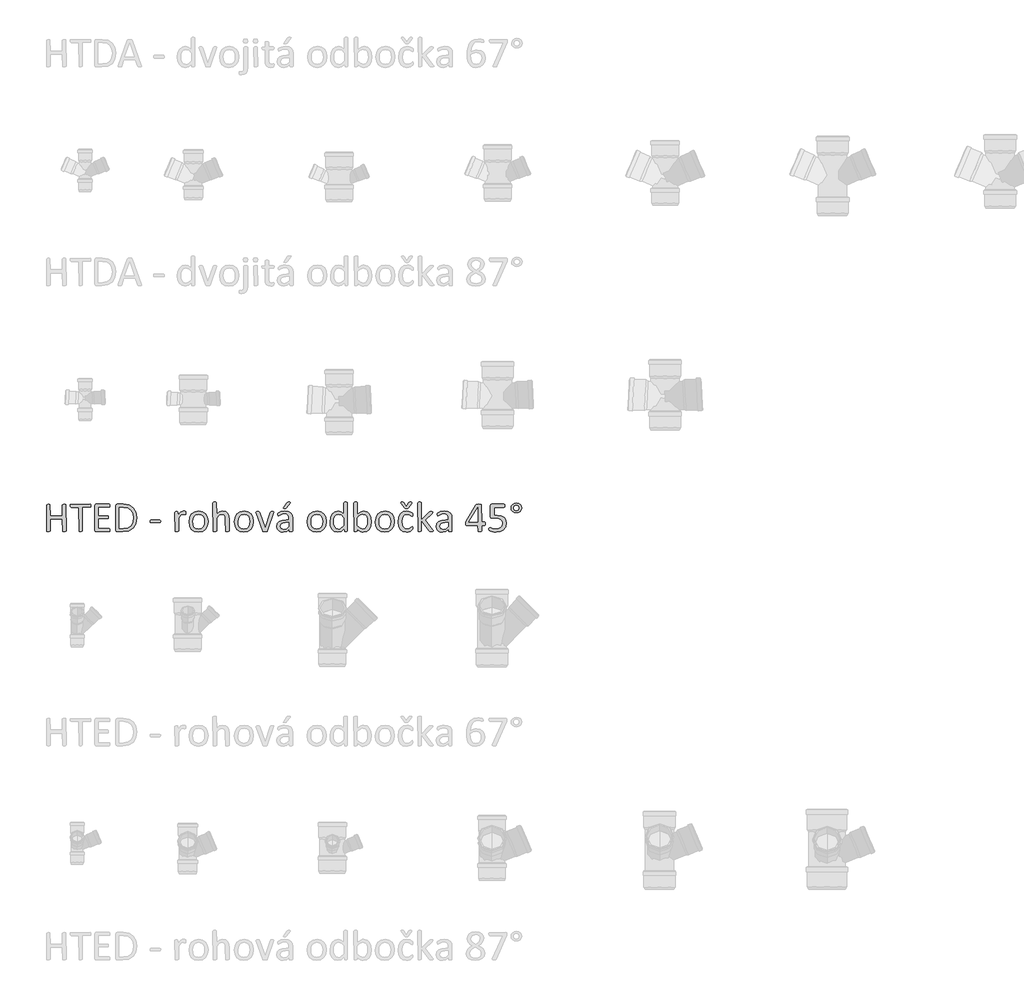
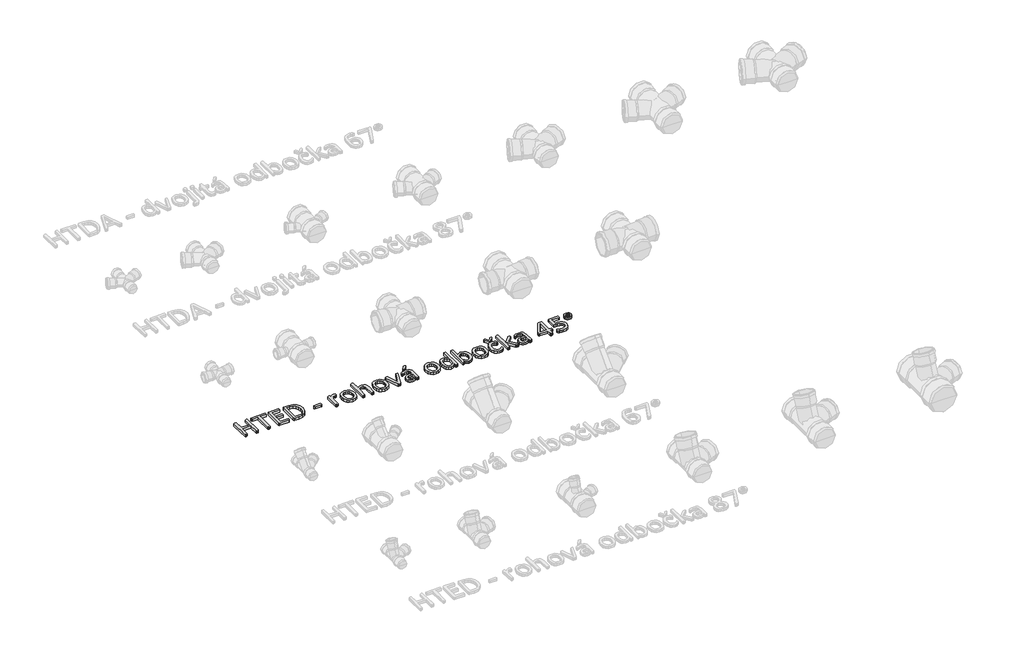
# One storey, part 14 of 26: 1 proxy.
"""IFC4 building model written with IfcOpenShell, lengths in millimetres."""

from ifc_helpers import new_model, si_unit, origin, origin_with_axes, place, context, project, spatial, polyline, outline, extrude, element, save

model = new_model("IFC4")

# Units and contexts
model_context = context("Model", 3, world=origin())
ifc_project = project(units=[si_unit("LENGTHUNIT", "METRE", prefix="MILLI")], contexts=[model_context])

# Site, building, storey
site = spatial("IfcSite", under=ifc_project)
building = spatial("IfcBuilding", under=site)
storey = spatial("IfcBuildingStorey", under=building, Name="Podlaží 1", Elevation=0.0)

# Proxy
placement = place(None, origin())
element("IfcBuildingElementProxy", 1, Name="120mm Arial", ObjectType="120mm Arial", at=placement, inside=storey, context=model_context, shape_type="SweptSolid", body=[
    extrude(outline(polyline([(-20465.0657483, 8928.0506997), (-20469.2817655, 8925.3184311), (-20473.1358927, 8925.0832026), (-20477.1166815, 8925.3184311), (-20479.5775327, 8925.8612659), (-20481.2784151, 8980.6694889), (-20534.5486061, 8980.6694889), (-20534.5486061, 8928.0145107), (-20538.7465288, 8925.3184311), (-20542.6549395, 8925.0832026), (-20546.5271613, 8925.3184311), (-20549.0603905, 8925.8793604), (-20550.7612729, 9042.5526591), (-20546.5271613, 9045.2849277), (-20542.6549395, 9045.5201562), (-20538.7465288, 9045.2849277), (-20536.2494886, 9044.7239984), (-20534.5486061, 8994.5660604), (-20481.2784151, 8994.5660604), (-20481.2784151, 9042.5526591), (-20477.1166815, 9045.2849277), (-20473.1358927, 9045.5201562), (-20469.2817655, 9045.2849277), (-20466.7666308, 9044.7239984), (-20465.0657483, 8928.0506997)])), origin_with_axes(), (0.0, 0.0, 1.0), 15.0),
    extrude(outline(polyline([(-20356.2092711, 9038.4633034), (-20356.390216, 9035.3329559), (-20356.9873343, 9033.1978056), (-20393.2667952, 9031.6235846), (-20393.2667952, 8928.0506997), (-20397.4647179, 8925.3184311), (-20401.3731287, 8925.0832026), (-20405.2453504, 8925.3184311), (-20407.7785796, 8925.8793604), (-20409.4794621, 9031.6235846), (-20443.3885442, 9031.6235846), (-20446.3017578, 9035.3329559), (-20446.5369862, 9038.4633034), (-20446.3017578, 9041.6660289), (-20445.686545, 9043.9097462), (-20359.3939021, 9045.5201562), (-20357.0054288, 9043.9097462), (-20356.390216, 9041.6660289), (-20356.2092711, 9038.4633034)])), origin_with_axes(), (0.0, 0.0, 1.0), 15.0),
    extrude(outline(polyline([(-20272.8298417, 8931.9952994), (-20273.0107867, 8928.9192354), (-20273.6621885, 8926.7298016), (-20274.7478581, 8925.463187), (-20334.0254212, 8925.0832026), (-20338.0785879, 8926.5307622), (-20339.9966043, 8931.5972206), (-20339.9966043, 9039.0061382), (-20338.0604934, 9044.0725966), (-20333.9530432, 9045.5201562), (-20276.0506617, 9045.5201562), (-20273.680283, 9043.8735572), (-20273.0650701, 9041.6841234), (-20272.8298417, 9038.4271144), (-20273.0650701, 9035.3691449), (-20273.680283, 9033.2159001), (-20323.7839374, 9031.6235846), (-20323.7839374, 8994.5660604), (-20282.9627585, 8994.5660604), (-20280.5742852, 8992.865178), (-20279.9590724, 8990.6757442), (-20279.7781275, 8987.3644517), (-20279.9590724, 8984.2702932), (-20280.5742852, 8982.1713319), (-20323.7839374, 8980.6694889), (-20323.7839374, 8938.9797742), (-20276.0868507, 8938.9797742), (-20273.6621885, 8937.3874587), (-20273.0107867, 8935.2342139), (-20272.8298417, 8931.9952994)])), origin_with_axes(), (0.0, 0.0, 1.0), 15.0),
    extrude(outline(polyline([(-20154.7089835, 8987.0749398), (-20158.7078667, 8959.7522536), (-20170.39691, 8940.3911447), (-20189.2513729, 8928.9011409), (-20215.8683739, 8925.0832026), (-20241.3816108, 8925.0832026), (-20245.452872, 8926.5307622), (-20247.3527939, 8931.5972206), (-20247.3527939, 9039.0061382), (-20245.452872, 9044.0725966), (-20241.3816108, 9045.5201562), (-20214.0951135, 9045.5201562), (-20187.6590574, 9041.4669895), (-20169.5464687, 9029.8322297), (-20158.4726383, 9011.4482235), (-20154.7089835, 8987.0749398)]), holes=[polyline([(-20170.9216503, 8986.3511601), (-20173.364407, 9004.3370873), (-20181.0002836, 9018.7403047), (-20194.1730754, 9028.2218197), (-20214.7103263, 9031.6235846), (-20231.140127, 9031.6235846), (-20231.140127, 8938.9797742), (-20214.5293814, 8938.9797742), (-20194.9330441, 8941.8387043), (-20181.6154964, 8950.578345), (-20173.5996354, 8965.3434523), (-20170.9216503, 8986.3511601)])]), origin_with_axes(), (0.0, 0.0, 1.0), 15.0),
    extrude(outline(polyline([(-20050.4846968, 8970.2832492), (-20051.335138, 8965.7234367), (-20053.8140837, 8964.4568221), (-20093.4048371, 8964.4568221), (-20095.9561607, 8965.7596256), (-20096.806602, 8970.2832492), (-20095.9561607, 8974.7706838), (-20093.4048371, 8976.0372984), (-20053.8140837, 8976.0372984), (-20050.7199252, 8972.9974233), (-20050.4846968, 8970.2832492)])), origin_with_axes(), (0.0, 0.0, 1.0), 15.0),
    extrude(outline(polyline([(-19939.3121243, 9006.1465367), (-19939.4025968, 9002.8533388), (-19939.7644866, 9000.7181885), (-19943.3110075, 8999.5058574), (-19945.6451973, 9000.3382041), (-19948.5584108, 9001.1343618), (-19952.0506482, 9001.5143462), (-19956.4657048, 9000.519149), (-19961.0074229, 8997.2621401), (-19965.9834088, 8991.254768), (-19971.7374579, 8982.0808594), (-19971.7374579, 8927.9059437), (-19975.8630026, 8925.2641476), (-19979.8799803, 8925.0832026), (-19983.8245801, 8925.2641476), (-19986.3216203, 8925.8069824), (-19987.9501247, 9010.2720814), (-19984.2226589, 9012.9500666), (-19980.5675711, 9013.0948225), (-19976.9848612, 9012.9500666), (-19974.777333, 9012.4072317), (-19973.2935844, 8998.2573373), (-19967.0328894, 9006.8341275), (-19961.4778797, 9012.0634363), (-19956.3028544, 9014.687138), (-19951.1097345, 9015.4109178), (-19948.4679384, 9015.2842563), (-19945.3556854, 9014.795705), (-19942.4243773, 9013.9814527), (-19940.5787389, 9013.0948225), (-19939.3483133, 9009.4035457), (-19939.3121243, 9006.1465367)])), origin_with_axes(), (0.0, 0.0, 1.0), 15.0),
    extrude(outline(polyline([(-19842.0361234, 8969.9937373), (-19844.7141085, 8951.0126129), (-19852.7299694, 8936.0665606), (-19866.0837062, 8926.2774393), (-19884.6667517, 8922.7671074), (-19902.580301, 8925.8612659), (-19915.3188249, 8934.8542295), (-19922.9185125, 8949.1850689), (-19925.4155527, 8968.2928548), (-19922.7737566, 8987.2739793), (-19914.8121791, 9002.201937), (-19901.5127259, 9011.9367749), (-19882.8934913, 9015.4109178), (-19864.9618475, 9012.3167593), (-19852.2233236, 9003.3237956), (-19844.587447, 8988.9929562), (-19842.0361234, 8969.9937373)]), holes=[polyline([(-19858.2487902, 8968.9080676), (-19859.4973103, 8981.4837411), (-19863.6047605, 8991.8699808), (-19871.3311095, 8998.9268335), (-19883.5087041, 9001.5143462), (-19895.0710859, 8999.1439675), (-19903.0326634, 8992.4490046), (-19907.6829484, 8982.2075209), (-19909.2028859, 8969.2699575), (-19907.9543658, 8956.6219061), (-19903.8107266, 8946.2718554), (-19896.0300941, 8939.2511916), (-19883.870594, 8936.6636789), (-19872.3444012, 8939.0340577), (-19864.3285402, 8945.6747371), (-19859.7144442, 8955.8800318), (-19858.2487902, 8968.9080676)])]), origin_with_axes(), (0.0, 0.0, 1.0), 15.0),
    extrude(outline(polyline([(-19749.392313, 8927.9421327), (-19753.5178576, 8925.2641476), (-19757.4624574, 8925.0832026), (-19761.4794351, 8925.2641476), (-19763.9221918, 8925.8069824), (-19765.6049798, 8976.2906213), (-19766.6725549, 8987.6539636), (-19769.7667135, 8995.0908008), (-19775.0322113, 8999.8677472), (-19782.5052374, 9001.5143462), (-19793.4885954, 8997.479274), (-19804.9785992, 8985.6273803), (-19804.9785992, 8927.9421327), (-19809.1041439, 8925.2641476), (-19813.1211216, 8925.0832026), (-19817.0657213, 8925.2641476), (-19819.5627615, 8925.8250769), (-19821.191266, 9051.8170401), (-19817.0657213, 9054.6035923), (-19813.1211216, 9054.7845372), (-19809.1041439, 9054.6035923), (-19806.6613872, 9054.0426629), (-19805.3766781, 9053.1017492), (-19804.9785992, 9001.7314801), (-19791.9505634, 9012.0453419), (-19778.7415826, 9015.4109178), (-19764.917389, 9012.5881767), (-19755.8520474, 9005.0427726), (-19750.894156, 8993.9870366), (-19749.392313, 8978.6790945), (-19749.392313, 8927.9421327)])), origin_with_axes(), (0.0, 0.0, 1.0), 15.0),
    extrude(outline(polyline([(-19642.851931, 8969.9937373), (-19645.5299161, 8951.0126129), (-19653.5457771, 8936.0665606), (-19666.8995138, 8926.2774393), (-19685.4825594, 8922.7671074), (-19703.3961087, 8925.8612659), (-19716.1346326, 8934.8542295), (-19723.7343202, 8949.1850689), (-19726.2313604, 8968.2928548), (-19723.5895642, 8987.2739793), (-19715.6279867, 9002.201937), (-19702.3285335, 9011.9367749), (-19683.7092989, 9015.4109178), (-19665.7776552, 9012.3167593), (-19653.0391312, 9003.3237956), (-19645.4032547, 8988.9929562), (-19642.851931, 8969.9937373)]), holes=[polyline([(-19659.0645978, 8968.9080676), (-19660.3131179, 8981.4837411), (-19664.4205681, 8991.8699808), (-19672.1469171, 8998.9268335), (-19684.3245118, 9001.5143462), (-19695.8868936, 8999.1439675), (-19703.848471, 8992.4490046), (-19708.498756, 8982.2075209), (-19710.0186935, 8969.2699575), (-19708.7701734, 8956.6219061), (-19704.6265343, 8946.2718554), (-19696.8459018, 8939.2511916), (-19684.6864016, 8936.6636789), (-19673.1602088, 8939.0340577), (-19665.1443479, 8945.6747371), (-19660.5302519, 8955.8800318), (-19659.0645978, 8968.9080676)])]), origin_with_axes(), (0.0, 0.0, 1.0), 15.0),
    extrude(outline(polyline([(-19553.4922713, 9011.502507), (-19581.9820524, 8928.3764006), (-19582.9591551, 8926.7298016), (-19584.7686046, 8925.7346044), (-19587.8265741, 8925.2279586), (-19592.4768591, 8925.0832026), (-19597.0909551, 8925.2641476), (-19600.1127357, 8925.8069824), (-19601.9221851, 8926.8202741), (-19602.9354768, 8928.3764006), (-19631.3076437, 9006.6169936), (-19631.904762, 9008.5169155), (-19628.3039576, 9013.00435), (-19624.7212478, 9013.0948225), (-19620.4147582, 9012.9500666), (-19617.917718, 9012.4434207), (-19615.8187566, 9010.1635145), (-19592.2597252, 8942.2729721), (-19568.3388038, 9010.1635145), (-19566.3665039, 9012.4434207), (-19563.9418417, 9012.9500666), (-19559.9067695, 9013.0948225), (-19556.3783431, 9013.00435), (-19553.4922713, 9011.502507)])), origin_with_axes(), (0.0, 0.0, 1.0), 15.0),
    extrude(outline(polyline([(-19496.9741186, 9051.4913392), (-19495.635126, 9053.0836547), (-19493.7713931, 9054.0607574), (-19491.0391245, 9054.6035923), (-19487.1307138, 9054.7845372), (-19482.7880351, 9054.4769308), (-19480.4719399, 9053.5903006), (-19480.7252628, 9050.6589925), (-19498.0235993, 9029.8503242), (-19499.4168753, 9028.4208591), (-19500.8463404, 9027.5704179), (-19502.9453017, 9027.1180555), (-19506.1661217, 9026.9913941), (-19509.4955086, 9027.2628115), (-19511.2325801, 9027.9865913), (-19510.8345012, 9030.8274268), (-19496.9741186, 9051.4913392)])), origin_with_axes(), (0.0, 0.0, 1.0), 15.0),
    extrude(outline(polyline([(-19471.4608818, 8927.8697547), (-19472.2570395, 8926.1869668), (-19474.4283788, 8925.35462), (-19478.4815455, 8925.0832026), (-19482.5889957, 8925.35462), (-19484.8146185, 8926.1869668), (-19485.5022093, 8927.8697547), (-19485.5022093, 8936.1932221), (-19497.6978984, 8926.5669512), (-19511.9563598, 8922.7671074), (-19523.9168205, 8924.4860843), (-19533.0183511, 8929.4620702), (-19538.8628727, 8937.4598367), (-19540.9437396, 8948.2441552), (-19538.066715, 8960.5122223), (-19529.8156256, 8969.1613906), (-19516.6609283, 8974.3183214), (-19499.1454579, 8976.0372984), (-19487.6735486, 8976.0372984), (-19487.6735486, 8982.9493951), (-19488.6868403, 8991.9966423), (-19491.9438492, 8998.5468492), (-19497.7521819, 9002.4914489), (-19506.5280116, 9003.8304415), (-19516.5704558, 9002.3828819), (-19524.3510884, 8999.198251), (-19529.9422871, 8996.01362), (-19533.271674, 8994.5660604), (-19536.1306041, 8998.0944868), (-19536.311549, 9000.7543775), (-19535.9858481, 9004.5542212), (-19534.3935327, 9007.2141119), (-19530.050854, 9009.928286), (-19522.9578123, 9012.6062712), (-19514.1819826, 9014.61476), (-19504.5738062, 9015.4109178), (-19489.1934861, 9013.3662399), (-19478.9339079, 9007.3950568), (-19473.2341422, 8997.6421245), (-19471.4608818, 8984.0350648), (-19471.4608818, 8927.8697547)]), holes=[polyline([(-19487.6735486, 8964.4568221), (-19500.5568285, 8964.4568221), (-19511.304958, 8963.3892469), (-19518.8865511, 8960.2408049), (-19523.3197022, 8955.2467245), (-19524.7310727, 8948.5336671), (-19520.677906, 8938.1836164), (-19509.3145637, 8934.3475837), (-19498.3131112, 8937.4055532), (-19487.6735486, 8946.7604067), (-19487.6735486, 8964.4568221)])]), origin_with_axes(), (0.0, 0.0, 1.0), 15.0),
    extrude(outline(polyline([(-19323.2307851, 8969.9937373), (-19325.9087703, 8951.0126129), (-19333.9246312, 8936.0665606), (-19347.2783679, 8926.2774393), (-19365.8614135, 8922.7671074), (-19383.7749628, 8925.8612659), (-19396.5134867, 8934.8542295), (-19404.1131743, 8949.1850689), (-19406.6102145, 8968.2928548), (-19403.9684183, 8987.2739793), (-19396.0068409, 9002.201937), (-19382.7073876, 9011.9367749), (-19364.0881531, 9015.4109178), (-19346.1565093, 9012.3167593), (-19333.4179854, 9003.3237956), (-19325.7821088, 8988.9929562), (-19323.2307851, 8969.9937373)]), holes=[polyline([(-19339.4434519, 8968.9080676), (-19340.691972, 8981.4837411), (-19344.7994222, 8991.8699808), (-19352.5257713, 8998.9268335), (-19364.7033659, 9001.5143462), (-19376.2657477, 8999.1439675), (-19384.2273251, 8992.4490046), (-19388.8776101, 8982.2075209), (-19390.3975477, 8969.2699575), (-19389.1490276, 8956.6219061), (-19385.0053884, 8946.2718554), (-19377.2247559, 8939.2511916), (-19365.0652558, 8936.6636789), (-19353.5390629, 8939.0340577), (-19345.523202, 8945.6747371), (-19340.909106, 8955.8800318), (-19339.4434519, 8968.9080676)])]), origin_with_axes(), (0.0, 0.0, 1.0), 15.0),
    extrude(outline(polyline([(-19230.9126756, 8927.9783217), (-19234.296346, 8925.2641476), (-19237.6076385, 8925.0832026), (-19241.0455924, 8925.2641476), (-19243.2893097, 8925.7346044), (-19244.9540031, 8938.0388605), (-19258.3982123, 8926.8021796), (-19273.651871, 8922.7671074), (-19289.06838, 8926.3679117), (-19299.4003362, 8936.1027496), (-19305.1905744, 8950.542156), (-19307.0181183, 8968.0033429), (-19304.738212, 8987.6358691), (-19298.0070602, 9002.5819214), (-19286.9694187, 9012.0815308), (-19271.7338546, 9015.4109178), (-19258.5791573, 9012.1720033), (-19246.7996415, 9002.6723938), (-19246.7996415, 9051.7808512), (-19245.1349481, 9053.9883794), (-19242.6379079, 9054.5493088), (-19238.8018751, 9054.7845372), (-19234.7848974, 9054.5493088), (-19232.3421407, 9053.9883794), (-19231.0212426, 9053.0655602), (-19230.9126756, 8927.9783217)]), holes=[polyline([(-19246.7996415, 8986.1702151), (-19258.4163068, 8997.587841), (-19270.1053501, 9001.5143462), (-19279.695432, 8998.7639831), (-19286.100883, 8991.5080909), (-19289.6835928, 8981.3027962), (-19290.8054515, 8969.7404144), (-19289.8645378, 8957.5085363), (-19286.5894343, 8946.9051627), (-19280.4011173, 8939.4683255), (-19270.7205629, 8936.6636789), (-19265.0388917, 8937.4779312), (-19259.4295985, 8940.1740108), (-19253.4403209, 8945.0595243), (-19246.7996415, 8952.4782669), (-19246.7996415, 8986.1702151)])]), origin_with_axes(), (0.0, 0.0, 1.0), 15.0),
    extrude(outline(polyline([(-19126.362688, 8970.1746822), (-19128.6787833, 8950.4516835), (-19135.5004076, 8935.5056313), (-19146.5742381, 8926.0422108), (-19161.6107628, 8922.7671074), (-19168.8485604, 8923.5632651), (-19175.3625784, 8926.1507778), (-19181.7318403, 8930.6563069), (-19188.4629922, 8937.2065138), (-19188.4629922, 8927.7611878), (-19192.3533084, 8925.2641476), (-19195.7369789, 8925.0832026), (-19199.0663658, 8925.2641476), (-19201.3281776, 8925.7707934), (-19202.7938316, 9051.8170401), (-19198.6682869, 9054.6035923), (-19194.7236872, 9054.7845372), (-19190.7067095, 9054.6035923), (-19188.2639527, 9054.0426629), (-19186.9792437, 9053.1017492), (-19186.5811648, 9001.5505352), (-19179.5424065, 9008.0102696), (-19172.8655382, 9012.2805703), (-19166.3334257, 9014.6690435), (-19159.4394235, 9015.4109178), (-19144.2219538, 9011.7558299), (-19133.9442811, 9001.9667086), (-19128.1721374, 8987.5815857), (-19126.362688, 8970.1746822)]), holes=[polyline([(-19142.5753548, 8968.4014218), (-19143.5162685, 8980.7237724), (-19146.8094665, 8991.3090515), (-19153.015878, 8998.7096996), (-19162.6602434, 9001.5143462), (-19168.3057256, 9000.700094), (-19173.9693023, 8997.9859198), (-19179.9585799, 8993.1185009), (-19186.5811648, 8985.6273803), (-19186.5811648, 8952.00781), (-19174.8921215, 8940.5901842), (-19163.2754562, 8936.6636789), (-19153.7396578, 8939.4321366), (-19147.2980178, 8946.7423122), (-19143.6972135, 8956.947607), (-19142.5753548, 8968.4014218)])]), origin_with_axes(), (0.0, 0.0, 1.0), 15.0),
    extrude(outline(polyline([(-19024.4544966, 8969.9937373), (-19027.1324817, 8951.0126129), (-19035.1483427, 8936.0665606), (-19048.5020794, 8926.2774393), (-19067.085125, 8922.7671074), (-19084.9986742, 8925.8612659), (-19097.7371982, 8934.8542295), (-19105.3368857, 8949.1850689), (-19107.8339259, 8968.2928548), (-19105.1921298, 8987.2739793), (-19097.2305523, 9002.201937), (-19083.9310991, 9011.9367749), (-19065.3118645, 9015.4109178), (-19047.3802208, 9012.3167593), (-19034.6416968, 9003.3237956), (-19027.0058203, 8988.9929562), (-19024.4544966, 8969.9937373)]), holes=[polyline([(-19040.6671634, 8968.9080676), (-19041.9156835, 8981.4837411), (-19046.0231337, 8991.8699808), (-19053.7494827, 8998.9268335), (-19065.9270773, 9001.5143462), (-19077.4894591, 8999.1439675), (-19085.4510366, 8992.4490046), (-19090.1013216, 8982.2075209), (-19091.6212591, 8969.2699575), (-19090.372739, 8956.6219061), (-19086.2290998, 8946.2718554), (-19078.4484673, 8939.2511916), (-19066.2889672, 8936.6636789), (-19054.7627744, 8939.0340577), (-19046.7469135, 8945.6747371), (-19042.1328174, 8955.8800318), (-19040.6671634, 8968.9080676)])]), origin_with_axes(), (0.0, 0.0, 1.0), 15.0),
    extrude(outline(polyline([(-18943.3911625, 8941.7301373), (-18943.4816349, 8939.1969081), (-18943.8073358, 8937.3874587), (-18945.7977302, 8933.7504654), (-18949.6880465, 8930.222039), (-18955.858269, 8926.4764787), (-18963.2951061, 8923.7984935), (-18971.6185735, 8922.7671074), (-18987.3245944, 8925.7707934), (-18998.7784093, 8934.5466231), (-19005.8171675, 8948.6965176), (-19008.2418298, 8968.0395319), (-19005.2743327, 8989.4815076), (-18997.1499048, 9004.1561424), (-18985.0084992, 9012.6424602), (-18969.881502, 9015.4109178), (-18962.2456255, 9014.5966655), (-18955.4420956, 9012.4615152), (-18949.9051804, 9009.4216402), (-18946.3948485, 9006.4722376), (-18944.8930055, 9004.5361267), (-18944.2054147, 9002.9980947), (-18943.8435248, 9001.0981728), (-18943.7530524, 8998.4382822), (-18944.5673046, 8993.6251467), (-18946.5396045, 8992.2499652), (-18949.669952, 8993.6975247), (-18954.139292, 8996.8821557), (-18960.7075934, 9000.0667867), (-18969.772935, 9001.5143462), (-18979.2951626, 8999.4153849), (-18986.2932083, 8993.1185009), (-18990.5951743, 8982.8227337), (-18992.0291629, 8968.7271227), (-18990.5454144, 8954.7219842), (-18986.1665468, 8944.6614454), (-18979.0554106, 8938.6359788), (-18969.4110452, 8936.6636789), (-18960.3818926, 8938.4912229), (-18953.6507407, 8942.5082006), (-18948.8556997, 8946.4708948), (-18945.8158247, 8948.2441552), (-18943.5178239, 8944.6795399), (-18943.3911625, 8941.7301373)])), origin_with_axes(), (0.0, 0.0, 1.0), 15.0),
    extrude(outline(polyline([(-18960.7618769, 9052.1065521), (-18959.6038293, 9053.3912611), (-18956.3106314, 9054.6578757), (-18953.4155123, 9054.7845372), (-18949.633763, 9054.4769308), (-18947.8243136, 9053.5903006), (-18949.1814006, 9049.7904568), (-18964.1274529, 9029.3074893), (-18965.303595, 9028.1494417), (-18966.8959105, 9027.4799454), (-18969.2120057, 9027.1180555), (-18972.5594872, 9026.9913941), (-18975.7079292, 9027.1180555), (-18977.9335519, 9027.5161344), (-18979.471584, 9028.2399142), (-18995.5033058, 9049.7904568), (-18996.8965819, 9052.0160796), (-18994.99666, 9054.4769308), (-18991.2330052, 9054.7845372), (-18988.1207522, 9054.6578757), (-18986.2389248, 9054.2055134), (-18983.9228295, 9052.1065521), (-18972.3423532, 9035.9300742), (-18960.7618769, 9052.1065521)])), origin_with_axes(), (0.0, 0.0, 1.0), 15.0),
    extrude(outline(polyline([(-18853.0634473, 8928.0145107), (-18857.1347085, 8925.2641476), (-18861.1335918, 8925.0832026), (-18865.2591364, 8925.2279586), (-18868.0094996, 8925.6803209), (-18869.818949, 8926.5850457), (-18871.0855636, 8928.0145107), (-18906.3336383, 8973.5764471), (-18906.3336383, 8927.9059437), (-18910.459183, 8925.2641476), (-18914.4761607, 8925.0832026), (-18918.4207605, 8925.2641476), (-18920.9178007, 8925.8250769), (-18922.5463051, 9051.8170401), (-18918.4207605, 9054.6035923), (-18914.4761607, 9054.7845372), (-18910.459183, 9054.6035923), (-18908.0164263, 9054.0426629), (-18906.7317172, 9053.1017492), (-18906.3336383, 8975.6754085), (-18874.1254386, 9009.9101915), (-18872.5150286, 9011.4120346), (-18870.4884453, 9012.4072317), (-18867.7018932, 9012.9500666), (-18863.8115769, 9013.0948225), (-18859.8307882, 9012.9500666), (-18857.2432755, 9012.4977042), (-18855.8138105, 9011.683452), (-18856.0128499, 9008.1550256), (-18858.1299057, 9005.6037019), (-18890.1209715, 8975.7839754), (-18855.3433536, 8932.3210003), (-18853.5881877, 8929.8058656), (-18853.0634473, 8928.0145107)])), origin_with_axes(), (0.0, 0.0, 1.0), 15.0),
    extrude(outline(polyline([(-18772.0001132, 8927.8697547), (-18772.796271, 8926.1869668), (-18774.9676103, 8925.35462), (-18779.020777, 8925.0832026), (-18783.1282272, 8925.35462), (-18785.35385, 8926.1869668), (-18786.0414408, 8927.8697547), (-18786.0414408, 8936.1932221), (-18798.2371299, 8926.5669512), (-18812.4955913, 8922.7671074), (-18824.456052, 8924.4860843), (-18833.5575826, 8929.4620702), (-18839.4021042, 8937.4598367), (-18841.482971, 8948.2441552), (-18838.6059465, 8960.5122223), (-18830.3548571, 8969.1613906), (-18817.2001598, 8974.3183214), (-18799.6846894, 8976.0372984), (-18788.2127801, 8976.0372984), (-18788.2127801, 8982.9493951), (-18789.2260717, 8991.9966423), (-18792.4830807, 8998.5468492), (-18798.2914133, 9002.4914489), (-18807.067243, 9003.8304415), (-18817.1096873, 9002.3828819), (-18824.8903198, 8999.198251), (-18830.4815186, 8996.01362), (-18833.8109055, 8994.5660604), (-18836.6698356, 8998.0944868), (-18836.8507805, 9000.7543775), (-18836.5250796, 9004.5542212), (-18834.9327641, 9007.2141119), (-18830.5900855, 9009.928286), (-18823.4970438, 9012.6062712), (-18814.7212141, 9014.61476), (-18805.1130377, 9015.4109178), (-18789.7327176, 9013.3662399), (-18779.4731394, 9007.3950568), (-18773.7733737, 8997.6421245), (-18772.0001132, 8984.0350648), (-18772.0001132, 8927.8697547)]), holes=[polyline([(-18788.2127801, 8964.4568221), (-18801.0960599, 8964.4568221), (-18811.8441895, 8963.3892469), (-18819.4257826, 8960.2408049), (-18823.8589337, 8955.2467245), (-18825.2703042, 8948.5336671), (-18821.2171375, 8938.1836164), (-18809.8537951, 8934.3475837), (-18798.8523427, 8937.4055532), (-18788.2127801, 8946.7604067), (-18788.2127801, 8964.4568221)])]), origin_with_axes(), (0.0, 0.0, 1.0), 15.0),
    extrude(outline(polyline([(-18625.2175761, 8959.8246315), (-18626.1584898, 8954.7400787), (-18628.764097, 8952.8763458), (-18642.2987787, 8952.8763458), (-18642.2987787, 8927.9421327), (-18644.0358501, 8925.8069824), (-18646.5690793, 8925.2641476), (-18650.549868, 8925.0832026), (-18654.4220898, 8925.2641476), (-18656.9010355, 8925.8069824), (-18658.5114455, 8952.8763458), (-18707.5475248, 8952.8763458), (-18709.3931632, 8953.1658577), (-18710.7140613, 8954.2334328), (-18711.5464081, 8956.4590556), (-18711.7816365, 8960.2227104), (-18711.691164, 8963.5159084), (-18711.3292741, 8966.175799), (-18710.5873999, 8968.4918943), (-18709.5017302, 8970.862273), (-18666.7625349, 9042.6974151), (-18665.3873533, 9043.9640297), (-18663.0350691, 9044.8687544), (-18659.4885482, 9045.3754002), (-18654.5306568, 9045.5201562), (-18649.0299305, 9045.2849277), (-18645.2481812, 9044.6878094), (-18643.0587474, 9043.7288012), (-18642.2987787, 8966.7729173), (-18628.764097, 8966.7729173), (-18626.1946788, 8965.0539404), (-18625.2175761, 8959.8246315)]), holes=[polyline([(-18658.5114455, 9031.5873956), (-18697.2336631, 8966.7729173), (-18658.5114455, 8966.7729173), (-18658.5114455, 9031.5873956)])]), origin_with_axes(), (0.0, 0.0, 1.0), 15.0),
    extrude(outline(polyline([(-18533.4423015, 8962.7197506), (-18536.7174049, 8945.7290205), (-18545.981786, 8933.189536), (-18560.2402474, 8925.426998), (-18578.642348, 8922.7671074), (-18589.3000051, 8923.5632651), (-18598.2748742, 8925.535565), (-18604.7346087, 8927.8335658), (-18607.9554287, 8929.6249207), (-18609.7829726, 8934.2209222), (-18609.873445, 8937.1341358), (-18609.7286891, 8939.9930659), (-18609.2039488, 8942.0558382), (-18604.1917739, 8942.5262951), (-18598.8358036, 8940.1740108), (-18590.4942417, 8937.7855376), (-18578.678537, 8936.6636789), (-18567.0075882, 8938.129333), (-18557.8698687, 8942.743429), (-18551.8444021, 8950.6326285), (-18549.6549683, 8962.1769158), (-18551.4825122, 8972.2736436), (-18557.0918054, 8979.5476302), (-18566.6818873, 8983.8722144), (-18580.5603644, 8985.3016794), (-18590.3856748, 8984.7407501), (-18598.0396458, 8984.1798208), (-18601.8033006, 8985.3921519), (-18602.9251593, 8990.0786259), (-18602.9251593, 9039.4404061), (-18601.4775997, 9044.0183131), (-18597.315866, 9045.5201562), (-18543.9371081, 9045.5201562), (-18541.3315009, 9043.8554627), (-18540.6258157, 9041.7203124), (-18540.3905872, 9038.6804373), (-18541.2772175, 9033.469223), (-18543.7561632, 9031.6235846), (-18586.7124924, 9031.6235846), (-18586.7124924, 8996.2307539), (-18580.361325, 8996.7916832), (-18572.8882989, 8996.8821557), (-18555.6804349, 8994.439399), (-18543.4123678, 8987.5453967), (-18535.9755306, 8976.7610781), (-18533.4423015, 8962.7197506)])), origin_with_axes(), (0.0, 0.0, 1.0), 15.0),
    extrude(outline(polyline([(-18466.2755389, 9029.6693792), (-18468.0307049, 9021.4001954), (-18472.9705018, 9014.61476), (-18480.4616224, 9010.073042), (-18489.7983814, 9008.462632), (-18498.9903845, 9009.9463805), (-18506.1558042, 9014.1262087), (-18510.8965617, 9020.5859431), (-18512.5974441, 9028.9455995), (-18510.7879947, 9037.4500117), (-18505.8120088, 9044.1449746), (-18498.3751717, 9048.5419367), (-18489.0746016, 9050.1523467), (-18479.9368821, 9048.6324092), (-18472.7171789, 9044.452581), (-18467.9764214, 9038.0290355), (-18466.2755389, 9029.6693792)]), holes=[polyline([(-18477.8560152, 9029.3436783), (-18478.7245509, 9033.9396799), (-18481.1492132, 9037.6128622), (-18484.8585845, 9040.0194299), (-18489.5450585, 9040.8879656), (-18494.068682, 9040.0194299), (-18497.7237699, 9037.6128622), (-18500.1484321, 9033.9939633), (-18501.0169678, 9029.5246233), (-18500.1484321, 9024.7114878), (-18497.6694864, 9021.0021165), (-18493.8696426, 9018.5955488), (-18489.1469796, 9017.727013), (-18484.7138285, 9018.6317377), (-18481.1130242, 9021.1287779), (-18478.7245509, 9024.8019603), (-18477.8560152, 9029.3436783)])]), origin_with_axes(), (0.0, 0.0, 1.0), 15.0),
])

save(model, "model.ifc")
